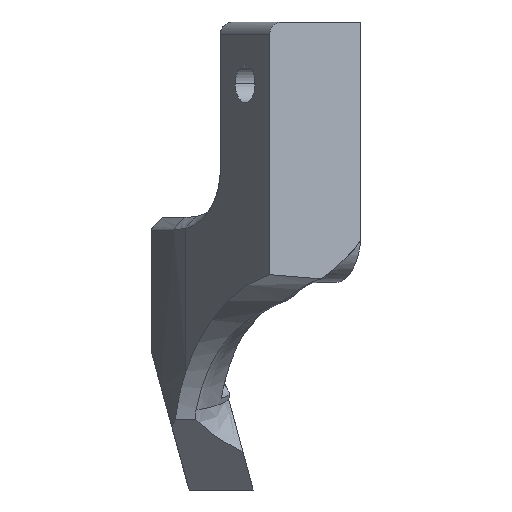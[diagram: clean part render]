
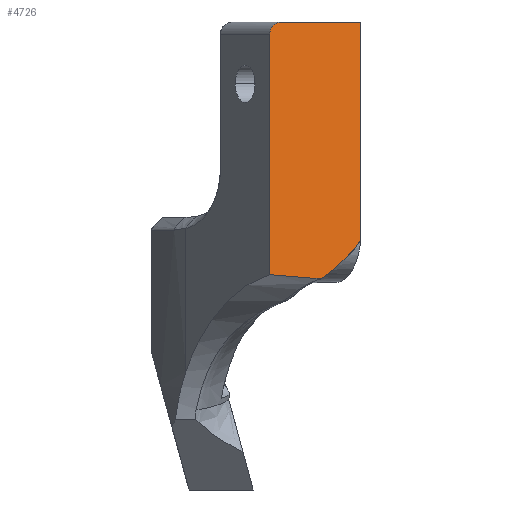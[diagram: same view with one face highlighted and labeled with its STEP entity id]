
A CAD part, left-side view. The second image highlights one B-rep face of the part: STEP entity #4726.
In plain terms, the highlighted planar face has unit normal (-0.943, -0.333, 0).
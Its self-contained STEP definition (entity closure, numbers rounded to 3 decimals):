
#72 = CARTESIAN_POINT ( 'NONE',  ( -27.472, 30.976, -20.402 ) ) ;
#110 = CARTESIAN_POINT ( 'NONE',  ( -25.122, 24.317, -18.533 ) ) ;
#150 = CARTESIAN_POINT ( 'NONE',  ( -25.866, 26.425, -20.479 ) ) ;
#177 = ORIENTED_EDGE ( 'NONE', *, *, #3156, .T. ) ;
#280 = CARTESIAN_POINT ( 'NONE',  ( -24.981, 23.918, -18.059 ) ) ;
#397 = ORIENTED_EDGE ( 'NONE', *, *, #3461, .T. ) ;
#461 = LINE ( 'NONE', #4032, #1414 ) ;
#543 = CARTESIAN_POINT ( 'NONE',  ( -26.99, 29.61, -20.491 ) ) ;
#566 = CARTESIAN_POINT ( 'NONE',  ( -25.868, 26.431, -20.483 ) ) ;
#654 = EDGE_CURVE ( 'NONE', #5751, #805, #5859, .T. ) ;
#656 = CARTESIAN_POINT ( 'NONE',  ( -25.801, 26.241, -20.344 ) ) ;
#745 = CARTESIAN_POINT ( 'NONE',  ( -27.131, 30.009, 0. ) ) ;
#805 = VERTEX_POINT ( 'NONE', #4436 ) ;
#992 = CARTESIAN_POINT ( 'NONE',  ( -26.513, 28.257, -20.603 ) ) ;
#1039 = DIRECTION ( 'NONE',  ( 0.333, -0.943, 0. ) ) ;
#1091 = CARTESIAN_POINT ( 'NONE',  ( -25.902, 26.525, -20.549 ) ) ;
#1098 = CARTESIAN_POINT ( 'NONE',  ( -26.041, 26.921, -20.737 ) ) ;
#1131 = CARTESIAN_POINT ( 'NONE',  ( -25.19, 24.509, -18.744 ) ) ;
#1185 = ORIENTED_EDGE ( 'NONE', *, *, #654, .F. ) ;
#1196 = CARTESIAN_POINT ( 'NONE',  ( -24.988, 23.937, -18.084 ) ) ;
#1414 = VECTOR ( 'NONE', #4896, 1000. ) ;
#1416 = ORIENTED_EDGE ( 'NONE', *, *, #5237, .T. ) ;
#1515 = CARTESIAN_POINT ( 'NONE',  ( -25.704, 25.965, -20.122 ) ) ;
#1516 = LINE ( 'NONE', #2955, #3338 ) ;
#1559 = CARTESIAN_POINT ( 'NONE',  ( -25.728, 26.033, -20.178 ) ) ;
#1582 = CARTESIAN_POINT ( 'NONE',  ( -25.883, 26.473, -20.512 ) ) ;
#1595 = VECTOR ( 'NONE', #3872, 1000. ) ;
#1607 = CARTESIAN_POINT ( 'NONE',  ( -25.151, 24.398, -18.623 ) ) ;
#1846 = CARTESIAN_POINT ( 'NONE',  ( -24.875, 23.616, -17.549 ) ) ;
#1866 = CARTESIAN_POINT ( 'NONE',  ( -24.875, 23.616, 0. ) ) ;
#1877 = EDGE_CURVE ( 'NONE', #4062, #2341, #1516, .T. ) ;
#1979 = CARTESIAN_POINT ( 'NONE',  ( -25.116, 24.298, -18.512 ) ) ;
#2065 = CARTESIAN_POINT ( 'NONE',  ( -25.653, 25.822, -20.004 ) ) ;
#2128 = CARTESIAN_POINT ( 'NONE',  ( -24.984, 23.926, -18.069 ) ) ;
#2149 = CARTESIAN_POINT ( 'NONE',  ( -25.014, 24.011, -18.176 ) ) ;
#2217 = EDGE_CURVE ( 'NONE', #805, #3440, #3265, .T. ) ;
#2226 = EDGE_LOOP ( 'NONE', ( #3890, #177, #4518, #1185, #397, #1416 ) ) ;
#2341 = VERTEX_POINT ( 'NONE', #1866 ) ;
#2469 = CARTESIAN_POINT ( 'NONE',  ( -25.936, 26.623, -20.613 ) ) ;
#2486 = CARTESIAN_POINT ( 'NONE',  ( -25.604, 25.682, -19.882 ) ) ;
#2506 = CARTESIAN_POINT ( 'NONE',  ( -25.873, 26.445, -20.493 ) ) ;
#2534 = CARTESIAN_POINT ( 'NONE',  ( -25.45, 25.247, -19.486 ) ) ;
#2596 = CARTESIAN_POINT ( 'NONE',  ( -24.982, 23.92, -18.062 ) ) ;
#2615 = CARTESIAN_POINT ( 'NONE',  ( -24.875, 23.616, -17.549 ) ) ;
#2887 = AXIS2_PLACEMENT_3D ( 'NONE', #4216, #3729, #3278 ) ;
#2894 = CARTESIAN_POINT ( 'NONE',  ( -25.132, 24.344, -18.563 ) ) ;
#2955 = CARTESIAN_POINT ( 'NONE',  ( -24.875, 23.616, 0. ) ) ;
#2959 = CARTESIAN_POINT ( 'NONE',  ( -25.839, 26.349, -20.425 ) ) ;
#2982 = CARTESIAN_POINT ( 'NONE',  ( -25.503, 25.394, -19.623 ) ) ;
#3063 = CARTESIAN_POINT ( 'NONE',  ( -24.981, 23.916, -18.057 ) ) ;
#3083 = CARTESIAN_POINT ( 'NONE',  ( -25.115, 24.295, -18.508 ) ) ;
#3156 = EDGE_CURVE ( 'NONE', #4062, #3440, #5358, .T. ) ;
#3197 = CARTESIAN_POINT ( 'NONE',  ( -27.472, 30.976, -1. ) ) ;
#3229 = CARTESIAN_POINT ( 'NONE',  ( -27.472, 30.976, -1. ) ) ;
#3265 = LINE ( 'NONE', #5724, #1595 ) ;
#3278 = DIRECTION ( 'NONE',  ( 0.333, -0.943, 0. ) ) ;
#3300 = CARTESIAN_POINT ( 'NONE',  ( -26.041, 26.921, -20.737 ) ) ;
#3338 = VECTOR ( 'NONE', #1039, 1000. ) ;
#3362 = CARTESIAN_POINT ( 'NONE',  ( -25.118, 24.306, -18.52 ) ) ;
#3440 = VERTEX_POINT ( 'NONE', #3229 ) ;
#3461 = EDGE_CURVE ( 'NONE', #5751, #5415, #5628, .T. ) ;
#3507 = CARTESIAN_POINT ( 'NONE',  ( -24.997, 23.961, -18.115 ) ) ;
#3543 = CARTESIAN_POINT ( 'NONE',  ( -24.91, 23.716, -17.798 ) ) ;
#3658 = CARTESIAN_POINT ( 'NONE',  ( -27.331, 30.575, 0. ) ) ;
#3729 = DIRECTION ( 'NONE',  ( -0.943, -0.333, 0. ) ) ;
#3844 = CARTESIAN_POINT ( 'NONE',  ( -25.346, 24.951, -19.199 ) ) ;
#3872 = DIRECTION ( 'NONE',  ( 0., 0., 1. ) ) ;
#3884 = CARTESIAN_POINT ( 'NONE',  ( -25.865, 26.421, -20.476 ) ) ;
#3890 = ORIENTED_EDGE ( 'NONE', *, *, #1877, .F. ) ;
#3928 = CARTESIAN_POINT ( 'NONE',  ( -25.271, 24.739, -18.987 ) ) ;
#3965 = CARTESIAN_POINT ( 'NONE',  ( -25.051, 24.116, -18.304 ) ) ;
#4032 = CARTESIAN_POINT ( 'NONE',  ( -24.875, 23.616, -37.8 ) ) ;
#4062 = VERTEX_POINT ( 'NONE', #745 ) ;
#4216 = CARTESIAN_POINT ( 'NONE',  ( -24.875, 23.616, -37.8 ) ) ;
#4293 = CARTESIAN_POINT ( 'NONE',  ( -26.041, 26.921, -20.737 ) ) ;
#4312 = CARTESIAN_POINT ( 'NONE',  ( -25.995, 26.79, -20.711 ) ) ;
#4338 = CARTESIAN_POINT ( 'NONE',  ( -25.864, 26.418, -20.474 ) ) ;
#4436 = CARTESIAN_POINT ( 'NONE',  ( -27.472, 30.976, -20.402 ) ) ;
#4518 = ORIENTED_EDGE ( 'NONE', *, *, #2217, .F. ) ;
#4726 = ADVANCED_FACE ( 'NONE', ( #4810 ), #5987, .T. ) ;
#4791 = CARTESIAN_POINT ( 'NONE',  ( -25.715, 25.997, -20.148 ) ) ;
#4810 = FACE_OUTER_BOUND ( 'NONE', #2226, .T. ) ;
#4834 = CARTESIAN_POINT ( 'NONE',  ( -26.028, 26.882, -20.742 ) ) ;
#4866 = CARTESIAN_POINT ( 'NONE',  ( -25.087, 24.218, -18.421 ) ) ;
#4896 = DIRECTION ( 'NONE',  ( 0., 0., 1. ) ) ;
#5237 = EDGE_CURVE ( 'NONE', #5415, #2341, #461, .T. ) ;
#5253 = CARTESIAN_POINT ( 'NONE',  ( -25.71, 25.981, -20.136 ) ) ;
#5293 = CARTESIAN_POINT ( 'NONE',  ( -25.706, 25.971, -20.127 ) ) ;
#5340 = CARTESIAN_POINT ( 'NONE',  ( -24.981, 23.916, -18.057 ) ) ;
#5358 =( BOUNDED_CURVE ( )  B_SPLINE_CURVE ( 3, ( #5484, #3658, #5936, #3197 ),
 .UNSPECIFIED., .F., .F. ) 
 B_SPLINE_CURVE_WITH_KNOTS ( ( 4, 4 ),
 ( 1.571, 3.142 ),
 .UNSPECIFIED. ) 
 CURVE ( )  GEOMETRIC_REPRESENTATION_ITEM ( )  RATIONAL_B_SPLINE_CURVE ( ( 1., 0.805, 0.805, 1. ) ) 
 REPRESENTATION_ITEM ( '' )  );
#5376 = CARTESIAN_POINT ( 'NONE',  ( -24.875, 23.616, -17.63 ) ) ;
#5415 = VERTEX_POINT ( 'NONE', #1846 ) ;
#5484 = CARTESIAN_POINT ( 'NONE',  ( -27.131, 30.009, 0. ) ) ;
#5628 = B_SPLINE_CURVE_WITH_KNOTS ( 'NONE', 3,
 ( #4293, #4834, #4312, #2469, #1091, #1582, #2506, #566, #150, #3884, #4338, #2959, #656, #5737, #1559, #4791, #5253, #5293, #1515, #2065, #2486, #2982, #2534, #3844, #3928, #1131, #1607, #2894, #110, #3362, #1979, #3083, #4866, #3965, #2149, #3507, #1196, #2128, #2596, #280, #5340, #3063, #3543, #5376, #2615 ),
 .UNSPECIFIED., .F., .F.,
 ( 4, 1, 1, 1, 1, 1, 1, 2, 2, 1, 1, 1, 1, 2, 2, 2, 2, 1, 1, 1, 1, 1, 2, 2, 1, 1, 1, 1, 1, 1, 2, 2, 4 ),
 ( 0., 0.063, 0.094, 0.109, 0.117, 0.121, 0.123, 0.124, 0.125, 0.188, 0.219, 0.234, 0.242, 0.246, 0.25, 0.375, 0.5, 0.625, 0.687, 0.719, 0.734, 0.742, 0.746, 0.75, 0.812, 0.844, 0.859, 0.867, 0.871, 0.873, 0.874, 0.875, 1. ),
 .UNSPECIFIED. ) ;
#5724 = CARTESIAN_POINT ( 'NONE',  ( -27.472, 30.976, -37.8 ) ) ;
#5737 = CARTESIAN_POINT ( 'NONE',  ( -25.753, 26.104, -20.236 ) ) ;
#5751 = VERTEX_POINT ( 'NONE', #1098 ) ;
#5859 =( BOUNDED_CURVE ( )  B_SPLINE_CURVE ( 3, ( #3300, #992, #543, #72 ),
 .UNSPECIFIED., .F., .F. ) 
 B_SPLINE_CURVE_WITH_KNOTS ( ( 4, 4 ),
 ( 4.435, 4.53 ),
 .UNSPECIFIED. ) 
 CURVE ( )  GEOMETRIC_REPRESENTATION_ITEM ( )  RATIONAL_B_SPLINE_CURVE ( ( 1., 0.999, 0.999, 1. ) ) 
 REPRESENTATION_ITEM ( '' )  );
#5936 = CARTESIAN_POINT ( 'NONE',  ( -27.472, 30.976, -0.414 ) ) ;
#5987 = PLANE ( 'NONE',  #2887 ) ;
